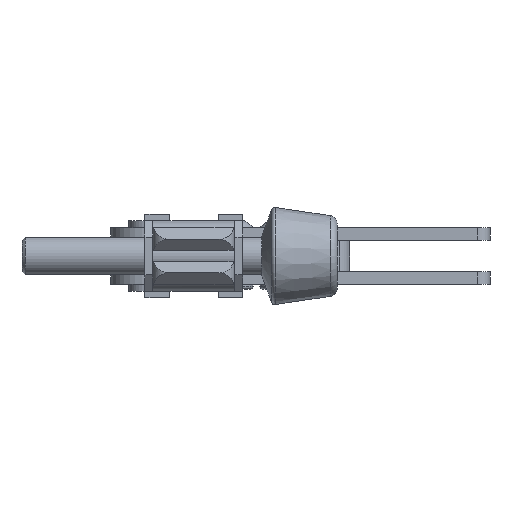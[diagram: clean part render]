
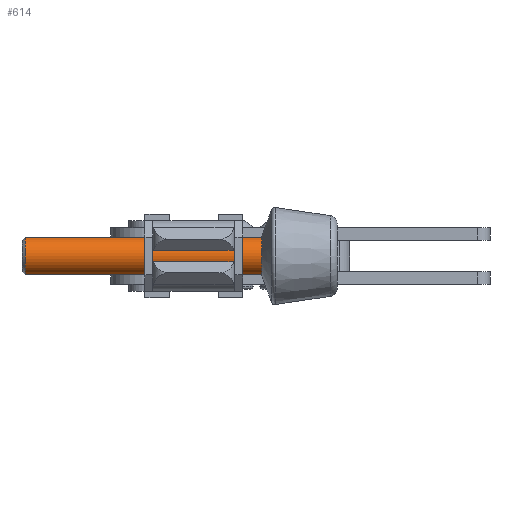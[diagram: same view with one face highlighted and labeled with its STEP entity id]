
A CAD part, left-side view. The second image highlights one B-rep face of the part: STEP entity #614.
In plain terms, the highlighted cylindrical face has radius 6 mm (diameter 12 mm), a full revolution.
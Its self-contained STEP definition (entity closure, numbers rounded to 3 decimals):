
#614 = ADVANCED_FACE( '', ( #1186, #1187 ), #1188, .T. );
#1186 = FACE_OUTER_BOUND( '', #1876, .T. );
#1187 = FACE_OUTER_BOUND( '', #1877, .T. );
#1188 = CYLINDRICAL_SURFACE( '', #1878, 6. );
#1876 = EDGE_LOOP( '', ( #3874 ) );
#1877 = EDGE_LOOP( '', ( #3875 ) );
#1878 = AXIS2_PLACEMENT_3D( '', #3876, #3877, #3878 );
#3874 = ORIENTED_EDGE( '', *, *, #4520, .F. );
#3875 = ORIENTED_EDGE( '', *, *, #4519, .T. );
#3876 = CARTESIAN_POINT( '', ( 0., 0., 0. ) );
#3877 = DIRECTION( '', ( 0., 1., 0. ) );
#3878 = DIRECTION( '', ( 0., 0., -1. ) );
#4519 = EDGE_CURVE( '', #5582, #5582, #5583, .T. );
#4520 = EDGE_CURVE( '', #5584, #5584, #5585, .T. );
#5582 = VERTEX_POINT( '', #7273 );
#5583 = CIRCLE( '', #7274, 6. );
#5584 = VERTEX_POINT( '', #7275 );
#5585 = CIRCLE( '', #7276, 6. );
#7273 = CARTESIAN_POINT( '', ( 0., 98.927, -6. ) );
#7274 = AXIS2_PLACEMENT_3D( '', #8308, #8309, #8310 );
#7275 = CARTESIAN_POINT( '', ( 0., 24., -6. ) );
#7276 = AXIS2_PLACEMENT_3D( '', #8311, #8312, #8313 );
#8308 = CARTESIAN_POINT( '', ( 0., 98.927, 0. ) );
#8309 = DIRECTION( '', ( 0., -1., 0. ) );
#8310 = DIRECTION( '', ( 0., 0., -1. ) );
#8311 = CARTESIAN_POINT( '', ( 0., 24., 0. ) );
#8312 = DIRECTION( '', ( 0., -1., 0. ) );
#8313 = DIRECTION( '', ( 0., 0., -1. ) );
